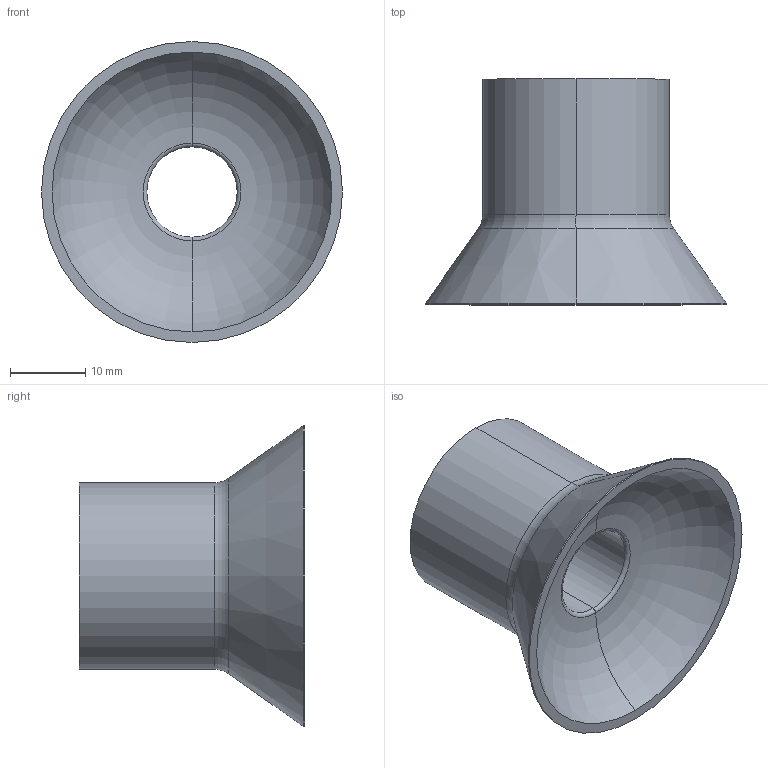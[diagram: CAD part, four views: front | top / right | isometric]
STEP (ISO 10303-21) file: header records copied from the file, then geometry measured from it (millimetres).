
FILE_DESCRIPTION (( 'STEP AP203' ), '1' );
FILE_NAME ('73_40--A.STEP', '2016-10-06T13:51:38', ( '' ), ( '' ), 'SwSTEP 2.0', 'SolidWorks 2016', '' );
FILE_SCHEMA (( 'CONFIG_CONTROL_DESIGN' ));
Length unit declared in the file: millimetre
Products named in the file (1): 73_40--A
Bounding box: 40 x 30 x 40 mm (x, y, z)
Volume: 10386.4 mm3; surface area: 5490.9 mm2
Topology: 1 solids, 1 shells, 16 faces, 32 edges, 18 vertices
Faces by surface type: cylinder 6, torus 6, cone 2, plane 2
Entity records: 501 total; most frequent: DIRECTION 90, CARTESIAN_POINT 67, ORIENTED_EDGE 64, AXIS2_PLACEMENT_3D 41, EDGE_CURVE 32, CIRCLE 24, VERTEX_POINT 18, EDGE_LOOP 18
